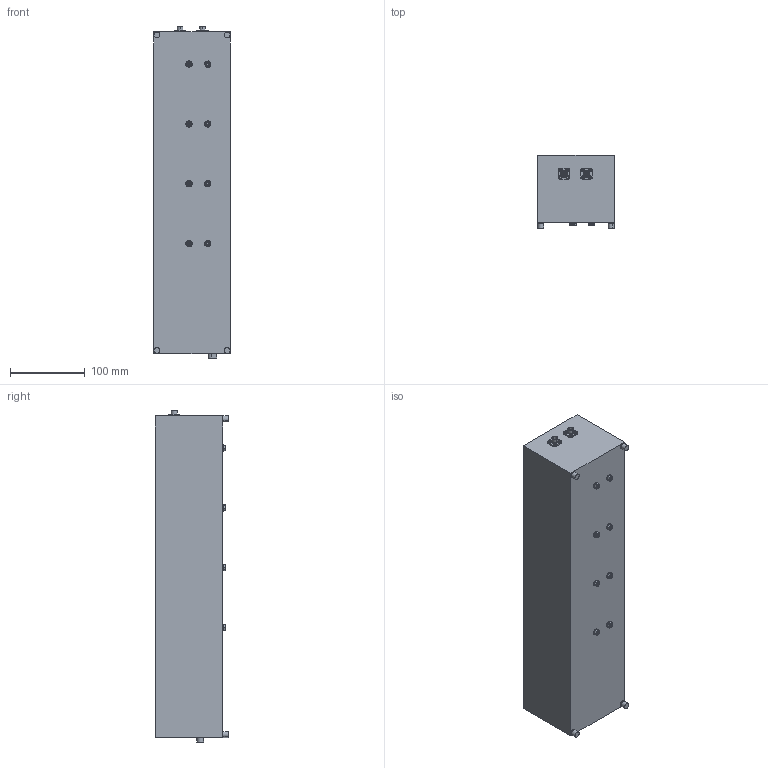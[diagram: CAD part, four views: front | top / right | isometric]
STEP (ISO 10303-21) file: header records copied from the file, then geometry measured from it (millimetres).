
FILE_DESCRIPTION (( 'STEP AP203' ), '1' );
FILE_NAME ('330ps&660ps Motor Driven Delay Line assembly.STEP', '2024-12-12T16:13:35', ( '' ), ( '' ), 'SwSTEP 2.0', 'SolidWorks 2018', '' );
FILE_SCHEMA (( 'CONFIG_CONTROL_DESIGN' ));
Length unit declared in the file: inch
Products named in the file (5): 93825A120_Steel Locknut with External-Tooth Lock Washer_93825A120; connector-new; 330&660ps box model; 93115K871_Load-Rated Threaded Bumper_93115K871; 330ps&660ps Motor Driven Delay Line assembly
Assembly tree (15 placements, depth 2):
  330ps&660ps Motor Driven Delay Line assembly
    330&660ps box model
    93115K871_Load-Rated Threaded Bumper_93115K871  x4
    connector-new  x2
    93825A120_Steel Locknut with External-Tooth Lock Washer_93825A120  x8
Bounding box: 102 x 98 x 444 mm (x, y, z)
Volume: 3951065.5 mm3; surface area: 189900.1 mm2
Topology: 19 solids, 19 shells, 1649 faces, 4334 edges, 2824 vertices
Faces by surface type: plane 566, cylinder 423, bspline 356, cone 304
Entity records: 34694 total; most frequent: CARTESIAN_POINT 18151, ORIENTED_EDGE 3626, DIRECTION 2555, EDGE_CURVE 1813, VERTEX_POINT 1200, LINE 1049, VECTOR 1049, EDGE_LOOP 797
